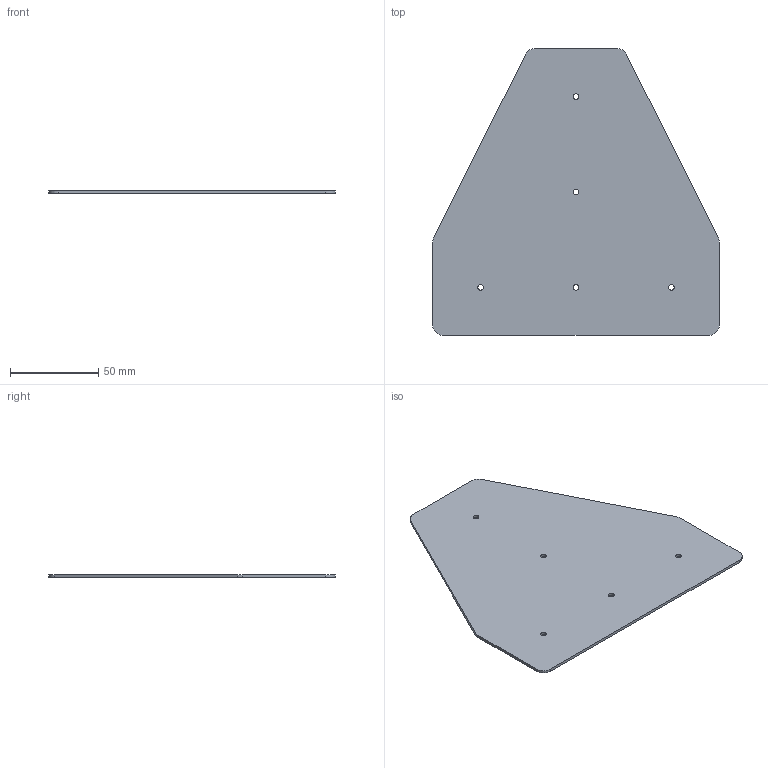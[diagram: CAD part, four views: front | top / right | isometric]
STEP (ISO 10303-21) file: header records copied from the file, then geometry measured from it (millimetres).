
FILE_DESCRIPTION (( 'STEP AP203' ), '1' );
FILE_NAME ('FDPGK-S_2-TEE.step', '2019-09-11T19:50:48', ( 'ydmin' ), ( '' ), 'SwSTEP 2.0', 'SolidWorks 2017', '' );
FILE_SCHEMA (( 'CONFIG_CONTROL_DESIGN' ));
Length unit declared in the file: inch
Products named in the file (1): FDPGK-S_2-TEE
Bounding box: 161.93 x 161.93 x 1.59 mm (x, y, z)
Volume: 32278.3 mm3; surface area: 41635.2 mm2
Topology: 1 solids, 1 shells, 24 faces, 66 edges, 44 vertices
Faces by surface type: cylinder 16, plane 8
Entity records: 881 total; most frequent: DIRECTION 148, CARTESIAN_POINT 135, ORIENTED_EDGE 132, EDGE_CURVE 66, AXIS2_PLACEMENT_3D 57, VERTEX_POINT 44, EDGE_LOOP 34, VECTOR 34
